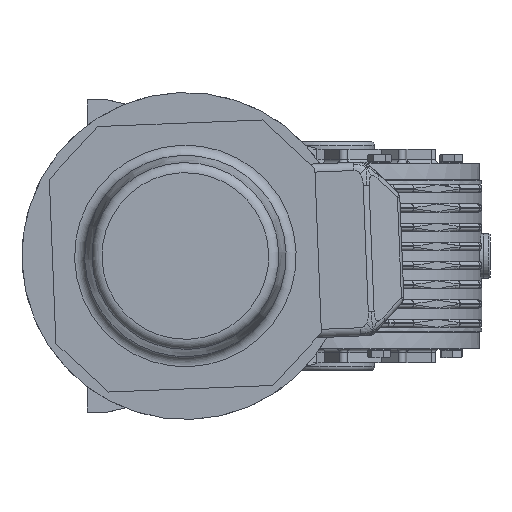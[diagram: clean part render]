
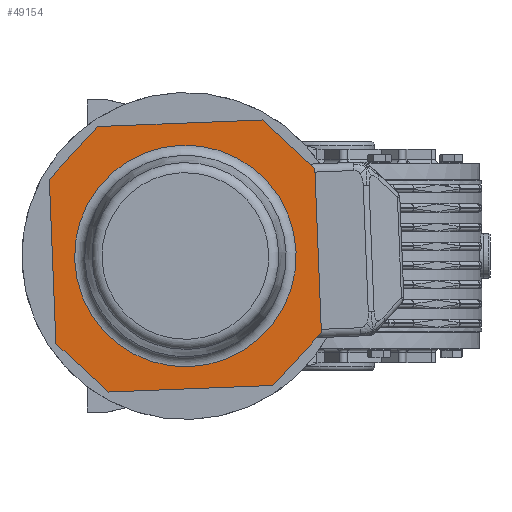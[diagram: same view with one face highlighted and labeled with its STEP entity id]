
A CAD part, left-side view. The second image highlights one B-rep face of the part: STEP entity #49154.
In plain terms, the highlighted planar face has unit normal (-1, 0, 0) as drawn and (1, 0, 0) by its records, which use the part's own axes.
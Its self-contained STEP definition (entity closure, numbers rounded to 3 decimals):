
#49048=CARTESIAN_POINT('',(209.0,0.,54.212));
#49049=VERTEX_POINT('',#49048);
#49050=CARTESIAN_POINT('',(209.0,0.0,0.0));
#49051=DIRECTION('',(1.0,0.0,0.0));
#49052=DIRECTION('',(0.0,0.0,-1.0));
#49053=AXIS2_PLACEMENT_3D('',#49050,#49051,#49052);
#49054=CIRCLE('',#49053,54.212);
#49055=EDGE_CURVE('',#49049,#49049,#49054,.T.);
#49080=CARTESIAN_POINT('',(209.0,28.6,0.0));
#49081=DIRECTION('',(1.0,0.0,0.0));
#49082=DIRECTION('',(0.0,0.0,-1.0));
#49083=AXIS2_PLACEMENT_3D('',#49080,#49081,#49082);
#49084=PLANE('',#49083);
#49085=CARTESIAN_POINT('',(209.0,-65.0,40.251));
#49086=VERTEX_POINT('',#49085);
#49087=CARTESIAN_POINT('',(209.0,-40.251,65.0));
#49088=VERTEX_POINT('',#49087);
#49089=CARTESIAN_POINT('',(209.0,-65.0,40.251));
#49090=DIRECTION('',(0.0,0.707,0.707));
#49091=VECTOR('',#49090,35.);
#49092=LINE('',#49089,#49091);
#49093=EDGE_CURVE('',#49086,#49088,#49092,.T.);
#49094=ORIENTED_EDGE('',*,*,#49093,.F.);
#49095=CARTESIAN_POINT('',(209.0,-65.0,-40.251));
#49096=VERTEX_POINT('',#49095);
#49097=CARTESIAN_POINT('',(209.0,-65.0,-40.251));
#49098=DIRECTION('',(0.0,0.0,1.0));
#49099=VECTOR('',#49098,80.503);
#49100=LINE('',#49097,#49099);
#49101=EDGE_CURVE('',#49096,#49086,#49100,.T.);
#49102=ORIENTED_EDGE('',*,*,#49101,.F.);
#49103=CARTESIAN_POINT('',(209.0,-40.251,-65.0));
#49104=VERTEX_POINT('',#49103);
#49105=CARTESIAN_POINT('',(209.0,-40.251,-65.0));
#49106=DIRECTION('',(0.0,-0.707,0.707));
#49107=VECTOR('',#49106,35.0);
#49108=LINE('',#49105,#49107);
#49109=EDGE_CURVE('',#49104,#49096,#49108,.T.);
#49110=ORIENTED_EDGE('',*,*,#49109,.F.);
#49111=CARTESIAN_POINT('',(209.0,40.251,-65.0));
#49112=VERTEX_POINT('',#49111);
#49113=CARTESIAN_POINT('',(209.0,40.251,-65.0));
#49114=DIRECTION('',(0.0,-1.0,0.0));
#49115=VECTOR('',#49114,80.503);
#49116=LINE('',#49113,#49115);
#49117=EDGE_CURVE('',#49112,#49104,#49116,.T.);
#49118=ORIENTED_EDGE('',*,*,#49117,.F.);
#49119=CARTESIAN_POINT('',(209.0,65.0,-40.251));
#49120=VERTEX_POINT('',#49119);
#49121=CARTESIAN_POINT('',(209.0,65.0,-40.251));
#49122=DIRECTION('',(0.0,-0.707,-0.707));
#49123=VECTOR('',#49122,35.0);
#49124=LINE('',#49121,#49123);
#49125=EDGE_CURVE('',#49120,#49112,#49124,.T.);
#49126=ORIENTED_EDGE('',*,*,#49125,.F.);
#49127=CARTESIAN_POINT('',(209.0,65.0,40.251));
#49128=VERTEX_POINT('',#49127);
#49129=CARTESIAN_POINT('',(209.0,65.0,40.251));
#49130=DIRECTION('',(0.0,0.0,-1.0));
#49131=VECTOR('',#49130,80.503);
#49132=LINE('',#49129,#49131);
#49133=EDGE_CURVE('',#49128,#49120,#49132,.T.);
#49134=ORIENTED_EDGE('',*,*,#49133,.F.);
#49135=CARTESIAN_POINT('',(209.0,40.251,65.0));
#49136=VERTEX_POINT('',#49135);
#49137=CARTESIAN_POINT('',(209.0,40.251,65.0));
#49138=DIRECTION('',(0.0,0.707,-0.707));
#49139=VECTOR('',#49138,35.0);
#49140=LINE('',#49137,#49139);
#49141=EDGE_CURVE('',#49136,#49128,#49140,.T.);
#49142=ORIENTED_EDGE('',*,*,#49141,.F.);
#49143=CARTESIAN_POINT('',(209.0,-40.251,65.0));
#49144=DIRECTION('',(0.0,1.0,0.0));
#49145=VECTOR('',#49144,80.503);
#49146=LINE('',#49143,#49145);
#49147=EDGE_CURVE('',#49088,#49136,#49146,.T.);
#49148=ORIENTED_EDGE('',*,*,#49147,.F.);
#49149=EDGE_LOOP('',(#49094,#49102,#49110,#49118,#49126,#49134,#49142,#49148));
#49150=FACE_OUTER_BOUND('',#49149,.T.);
#49151=ORIENTED_EDGE('',*,*,#49055,.F.);
#49152=EDGE_LOOP('',(#49151));
#49153=FACE_BOUND('',#49152,.T.);
#49154=ADVANCED_FACE('',(#49150,#49153),#49084,.T.);
